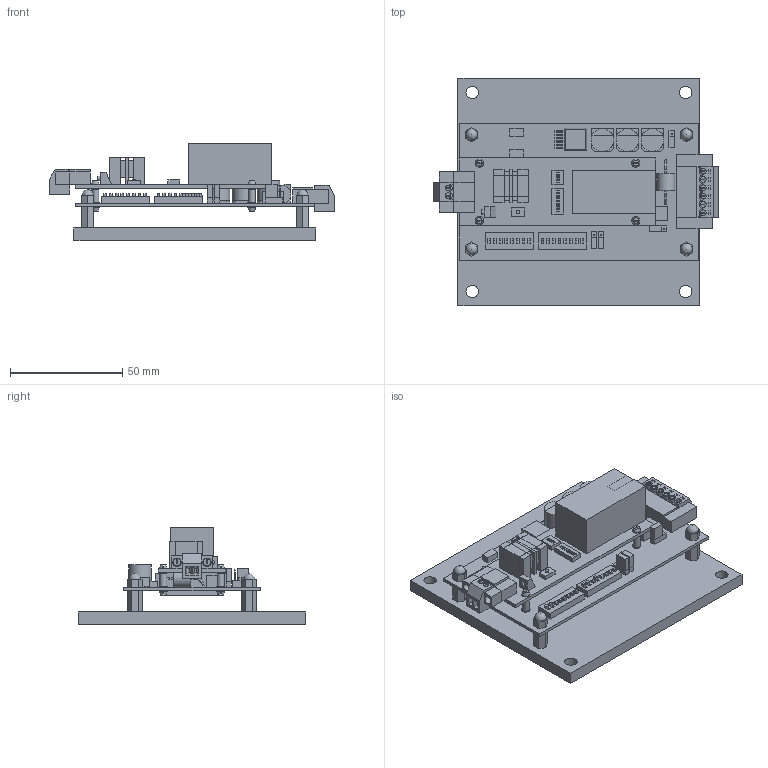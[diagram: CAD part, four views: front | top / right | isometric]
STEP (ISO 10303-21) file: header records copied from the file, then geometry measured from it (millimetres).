
FILE_DESCRIPTION((' '),'2;1');
FILE_NAME('C:\xampp\htdocs\mcs\mcscontrols.com\Documents\MCS\Drawings\BMS-GATEWAY.stp.step','2018-03-08T16:45:42',(' '),(' '),' ','ACIS',' ');
FILE_SCHEMA(('CONFIG_CONTROL_DESIGN'));
Length unit declared in the file: millimetre
Products named in the file (71): C:\xampp\htdocs\mcs\mcscontrols.com\Documents\MCS\Drawings\BMS-GATEWAY.stp.step; Body1; Body2; Body3; Body4; Body5; Body6; Body7; Body8; Body9; Body10; Body11; Body12; Body13; Body14; Body15; Body16; Body17; Body18; Body19; Body20; Body21; Body22; Body23; Body24; Body25; Body26; Body27; Body28; Body29; Body30; Body31; Body32; Body33; Body34; Body35; Body36; Body37; Body38; Body39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
Assembly tree (70 placements, depth 2):
  C:\xampp\htdocs\mcs\mcscontrols.com\Documents\MCS\Drawings\BMS-GATEWAY.stp.step
    Body1
    Body2
    Body3
    Body4
    Body5
    Body6
    Body7
    Body8
    Body9
    Body10
    Body11
    Body12
    Body13
    Body14
    Body15
    Body16
    Body17
    Body18
    Body19
    Body20
    Body21
    Body22
    Body23
    Body24
    Body25
    Body26
    Body27
    Body28
    Body29
    Body30
    Body31
    Body32
    Body33
    Body34
    Body35
    Body36
    Body37
    Body38
    Body39
    Body40
    Body41
    Body42
    Body43
    Body44
    Body45
    Body46
    Body47
    Body48
    Body49
    Body50
    Body51
    Body52
    Body53
    Body54
    Body55
    Body56
    Body57
    Body58
    Body59
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Bounding box: 127.32 x 101.6 x 43.31 mm (x, y, z)
Volume: 102096.8 mm3; surface area: 62253.1 mm2
Topology: 70 solids, 70 shells, 1160 faces, 2667 edges, 1749 vertices
Faces by surface type: plane 1002, cylinder 104, cone 20, bspline 20, torus 10, sphere 4
Full cylindrical faces by diameter (mm): 0.762 x2, 1.524 x1, 2.032 x1, 2.54 x28, 2.778 x4, 3.175 x8, 3.224 x4, 3.429 x6, 3.696 x2, 5.556 x4, 8.128 x1, 10.16 x3
Entity records: 43456 total; most frequent: CARTESIAN_POINT 7495, DIRECTION 5338, ORIENTED_EDGE 5068, EDGE_CURVE 2534, VECTOR 2164, LINE 2164, VERTEX_POINT 1702, AXIS2_PLACEMENT_3D 1587
